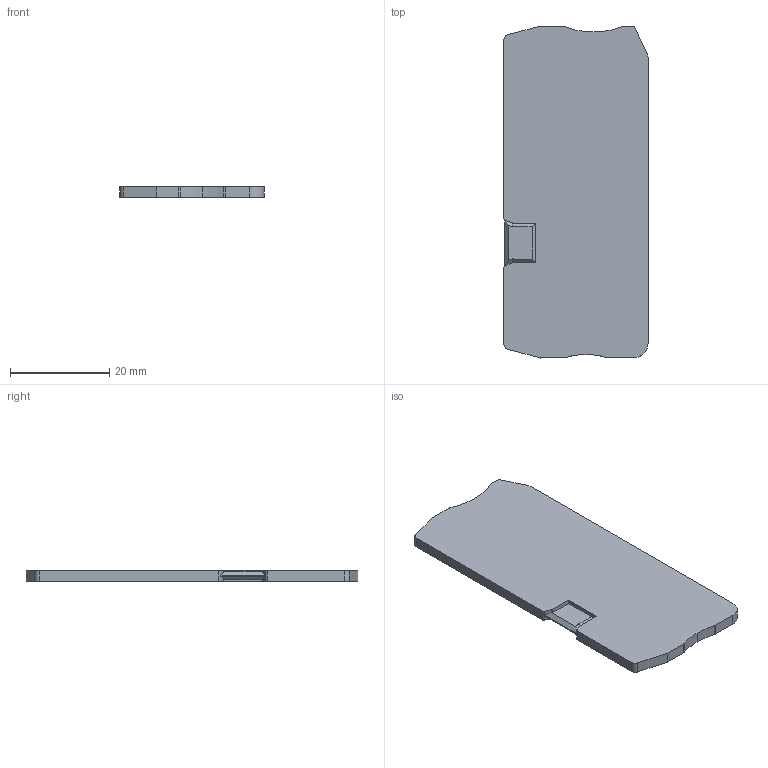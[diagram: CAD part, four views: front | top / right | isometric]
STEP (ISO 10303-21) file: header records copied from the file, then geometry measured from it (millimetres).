
FILE_DESCRIPTION( ('This file contains a STEP AP42 implementation' ,'as created by ZW3D STEP Interface translator.') ,'2;1' );
FILE_NAME( 'D-rpv4-twin.stp' ,'23 6 9.1721 7', (''), ('ZWCAD Software Co.'), 'Version 1.0', 'ZW3D to STEP translator', '' );
FILE_SCHEMA(('AUTOMOTIVE_DESIGN { 1 0 10303 214 1 1 1 1 }'));
Length unit declared in the file: millimetre
Products named in the file (2): 0; D-RPV4-TWIN
Bounding box: 29.05 x 66.95 x 2.2 mm (x, y, z)
Volume: 4151.7 mm3; surface area: 4256.2 mm2
Topology: 1 solids, 1 shells, 58 faces, 152 edges, 96 vertices
Faces by surface type: plane 35, cylinder 19, cone 2, bspline 2
Entity records: 1875 total; most frequent: CARTESIAN_POINT 338, DIRECTION 304, ORIENTED_EDGE 304, EDGE_CURVE 152, VECTOR 110, LINE 110, AXIS2_PLACEMENT_3D 97, VERTEX_POINT 96
